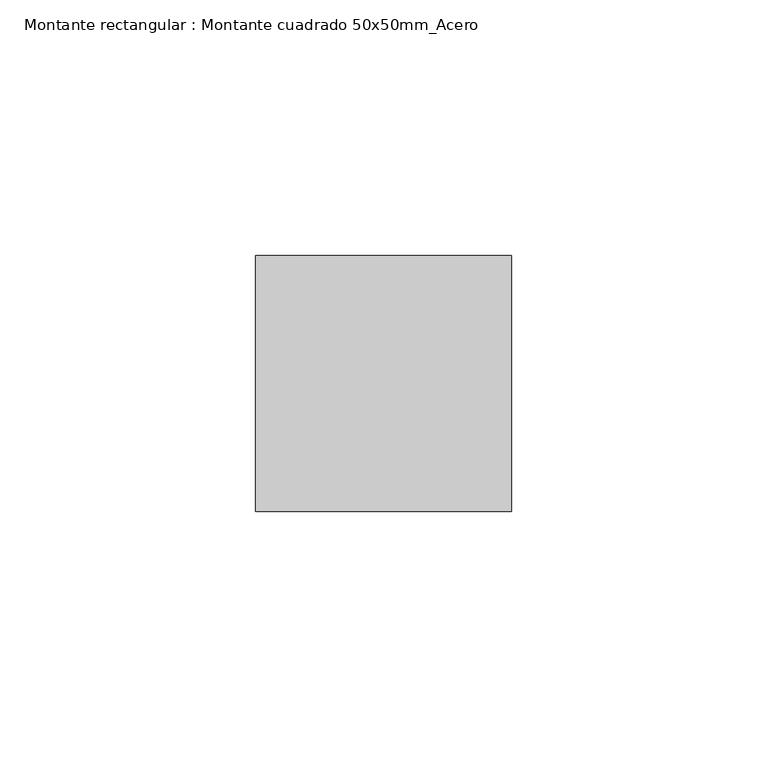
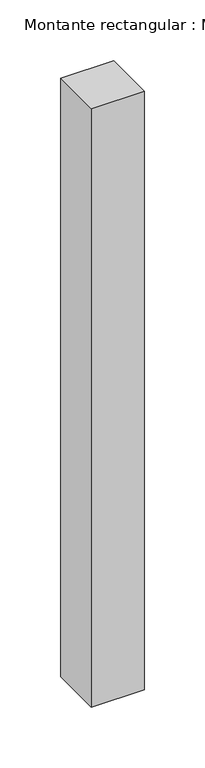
"""IFC4 building model written with IfcOpenShell, lengths in millimetres: member geometry, Montante rectangular : Montante cuadrado 50x50mm_Acero."""

import ifcopenshell
import ifcopenshell.guid

model = None  # the IFC model being written
_history = None  # IfcOwnerHistory: only IFC2X3 demands one
_inside = {}  # id of a spatial element -> (the spatial element, [elements in it])
_under = {}  # id of a project, library or spatial element -> (it, [spatial elements below it])
_declared = {}  # id of a project -> (the project, [libraries it declares])
_typed = {}  # id of a type object -> (the type object, [elements of that type])
_made_of = {}  # id of a material, layer set ... -> (it, [elements and type objects made of it])


def new_model(schema):
    """Start an empty IFC model of exactly this schema.

    Asked for "IFC4X3", IfcOpenShell would pick the latest addendum, in which some entities
    have other attributes; the version numbers below select the first issue.
    IFC2X3 requires an IfcOwnerHistory on every rooted entity: one is made here for all.
    """
    global model, _history
    if schema == "IFC4X3":
        model = ifcopenshell.file(schema_version=(4, 3, 0, 0))
    else:
        model = ifcopenshell.file(schema=schema)
    _inside.clear()
    _under.clear()
    _declared.clear()
    _typed.clear()
    _made_of.clear()
    _history = None
    if model.schema == "IFC2X3":
        org = make("IfcOrganization", Name="unknown")
        user = make(
            "IfcPersonAndOrganization",
            ThePerson=make("IfcPerson", FamilyName="unknown"),
            TheOrganization=org,
        )
        app = make(
            "IfcApplication",
            ApplicationDeveloper=org,
            Version="unknown",
            ApplicationFullName="unknown",
            ApplicationIdentifier="unknown",
        )
        _history = make(
            "IfcOwnerHistory",
            OwningUser=user,
            OwningApplication=app,
            ChangeAction="ADDED",
            CreationDate=0,
        )
    return model


def make(cls, **values):
    """One entity of the class cls with the attributes given. An attribute that is None is left unset."""
    return model.create_entity(
        cls, **{name: value for name, value in values.items() if value is not None}
    )


def rooted(cls, **values):
    """An entity with a GlobalId (a new one), such as an element, a storey or a relation."""
    return make(cls, GlobalId=ifcopenshell.guid.new(), OwnerHistory=_history, **values)


def si_unit(unit_type, name, prefix=None):
    """IfcSIUnit, for example si_unit("LENGTHUNIT", "METRE", prefix="MILLI")."""
    return make("IfcSIUnit", UnitType=unit_type, Prefix=prefix, Name=name)


def assignment(units):
    """IfcUnitAssignment: the units of a project."""
    return None if units is None else make("IfcUnitAssignment", Units=units)


def point(xyz):
    """IfcCartesianPoint."""
    return None if xyz is None else make("IfcCartesianPoint", Coordinates=xyz)


def direction(xyz):
    """IfcDirection."""
    return None if xyz is None else make("IfcDirection", DirectionRatios=xyz)


def frame(location, z_axis=None, x_axis=None):
    """IfcAxis2Placement3D, a coordinate frame: its origin and axes. An axis left out is left unset."""
    return make(
        "IfcAxis2Placement3D",
        Location=point(location),
        Axis=direction(z_axis),
        RefDirection=direction(x_axis),
    )


def origin():
    """The frame at (0, 0, 0) with its axes left unset."""
    return frame((0.0, 0.0, 0.0))


def place(relative_to, where):
    """IfcLocalPlacement: puts the frame where relative to a parent placement (None: the world)."""
    return make(
        "IfcLocalPlacement", PlacementRelTo=relative_to, RelativePlacement=where
    )


def context(
    kind, dimensions, precision=None, world=None, true_north=None, identifier=None
):
    """IfcGeometricRepresentationContext, for example the 3D "Model" context."""
    return make(
        "IfcGeometricRepresentationContext",
        ContextIdentifier=identifier,
        ContextType=kind,
        CoordinateSpaceDimension=dimensions,
        Precision=precision,
        WorldCoordinateSystem=world,
        TrueNorth=true_north,
    )


def project(units=None, contexts=None):
    """IfcProject with its units and contexts."""
    return rooted(
        "IfcProject",
        Name="project",
        RepresentationContexts=contexts,
        UnitsInContext=assignment(units),
    )


def spatial(cls, under=None, at=None, **own):
    """A site, building, storey or space (cls), placed at a placement, below another one or the project."""
    s = rooted(cls, ObjectPlacement=at, **own)
    if under is not None:
        _under.setdefault(under.id(), (under, []))[1].append(s)
    return s


def polyline(points):
    """IfcPolyline through the points."""
    return make("IfcPolyline", Points=[point(p) for p in points])


def outline(outer, holes=None, kind="AREA"):
    """IfcArbitraryClosedProfileDef: a profile drawn as a closed curve; with holes, ...WithVoids."""
    if holes is None:
        return make("IfcArbitraryClosedProfileDef", ProfileType=kind, OuterCurve=outer)
    return make(
        "IfcArbitraryProfileDefWithVoids",
        ProfileType=kind,
        OuterCurve=outer,
        InnerCurves=holes,
    )


def extrude(swept, where, along, depth):
    """IfcExtrudedAreaSolid: the profile swept, set in the frame where, extruded along a direction by depth."""
    return make(
        "IfcExtrudedAreaSolid",
        SweptArea=swept,
        Position=where,
        ExtrudedDirection=direction(along),
        Depth=depth,
    )


def shape(context_of_items, identifier, shape_type, items):
    """IfcShapeRepresentation: the items that make up one representation, for example the "Body"."""
    return make(
        "IfcShapeRepresentation",
        ContextOfItems=context_of_items,
        RepresentationIdentifier=identifier,
        RepresentationType=shape_type,
        Items=items,
    )


def source(mapping_origin, context_of_items, identifier, shape_type, items):
    """IfcRepresentationMap: a shape defined once, which mapped items show again and again."""
    return make(
        "IfcRepresentationMap",
        MappingOrigin=mapping_origin,
        MappedRepresentation=shape(context_of_items, identifier, shape_type, items),
    )


def transform(
    local_origin,
    x_axis=None,
    y_axis=None,
    z_axis=None,
    scale=None,
    scale2=None,
    scale3=None,
    uniform=True,
):
    """IfcCartesianTransformationOperator3D, or its non-uniform kind. x_axis, y_axis, z_axis: its Axis1, 2, 3."""
    if uniform:
        return make(
            "IfcCartesianTransformationOperator3D",
            Axis1=direction(x_axis),
            Axis2=direction(y_axis),
            LocalOrigin=point(local_origin),
            Scale=scale,
            Axis3=direction(z_axis),
        )
    return make(
        "IfcCartesianTransformationOperator3DnonUniform",
        Axis1=direction(x_axis),
        Axis2=direction(y_axis),
        LocalOrigin=point(local_origin),
        Scale=scale,
        Axis3=direction(z_axis),
        Scale2=scale2,
        Scale3=scale3,
    )


def mapped(mapping_source, mapping_target):
    """IfcMappedItem: shows the shape of a source again, moved by a transform."""
    return make(
        "IfcMappedItem", MappingSource=mapping_source, MappingTarget=mapping_target
    )


def made_of(thing, what):
    """Note that an element or type object is made of a material, layer set ...; save() writes the relation."""
    if what is not None:
        _made_of.setdefault(what.id(), (what, []))[1].append(thing)
    return thing


def element(
    cls,
    number,
    at=None,
    inside=None,
    cuts=None,
    type_object=None,
    material=None,
    context=None,
    identifier="Body",
    shape_type=None,
    held_by="IfcProductDefinitionShape",
    body=None,
    shapes=None,
    **own,
):
    """One element of the class cls, such as IfcWall. Its Tag is "e" and its number.

    at: its placement. inside: the storey or other place that contains it. cuts: it is an
    opening in that element (IfcRelVoidsElement). A single representation is given by context,
    identifier, shape_type and body (its items); several are given by shapes. held_by: the class
    of the entity that holds the representations. save() writes the other relations.
    """
    e = rooted(cls, Tag="e%d" % number, ObjectPlacement=at, **own)
    if body is not None:
        shapes = [shape(context, identifier, shape_type, body)]
    if shapes is not None:
        e.Representation = make(held_by, Representations=shapes)
    if inside is not None:
        _inside.setdefault(inside.id(), (inside, []))[1].append(e)
    if cuts is not None:
        rooted(
            "IfcRelVoidsElement", RelatingBuildingElement=cuts, RelatedOpeningElement=e
        )
    if type_object is not None:
        _typed.setdefault(type_object.id(), (type_object, []))[1].append(e)
    return made_of(e, material)


def aggregate(whole, parts):
    """IfcRelAggregates: a whole, such as a stair, and the parts it consists of."""
    return rooted("IfcRelAggregates", RelatingObject=whole, RelatedObjects=parts)


def save(model, path):
    """Write the relations noted so far, then the file.

    IfcRelAggregates (storeys below a building ...), IfcRelContainedInSpatialStructure (elements
    in a storey), IfcRelDefinesByType, IfcRelAssociatesMaterial and IfcRelDeclares: one each for
    every whole, place, type object, material and project.
    """
    for whole, parts in _under.values():
        aggregate(whole, parts)
    for where, things in _inside.values():
        rooted(
            "IfcRelContainedInSpatialStructure",
            RelatedElements=things,
            RelatingStructure=where,
        )
    for kind, things in _typed.values():
        rooted("IfcRelDefinesByType", RelatedObjects=things, RelatingType=kind)
    for what, things in _made_of.values():
        rooted("IfcRelAssociatesMaterial", RelatedObjects=things, RelatingMaterial=what)
    for by, libraries in _declared.values():
        rooted("IfcRelDeclares", RelatingContext=by, RelatedDefinitions=libraries)
    model.write(path)


def montante_rectangular_montante_cuadrado_50x50mm_acero_400ae449(model_context):
    return source(origin(), model_context, "Body", "SweptSolid", [
        extrude(outline(polyline([(-50.0, 0.0), (0.0, 0.0), (0.0, -50.0), (-50.0, -50.0), (-50.0, 0.0)])), frame((0.0, 0.0, -600.0), z_axis=(0.0, 0.0, 1.0), x_axis=(1.0, 0.0, 0.0)), (0.0, 0.0, 1.0), 600.0),
    ])


if __name__ == "__main__":
    model = new_model("IFC4")
    model_context = context("Model", 3, world=origin())
    ifc_project = project(units=[si_unit("LENGTHUNIT", "METRE", prefix="MILLI")], contexts=[model_context])
    site = spatial("IfcSite", under=ifc_project)
    building = spatial("IfcBuilding", under=site)
    placement = place(None, origin())
    montante_rectangular_montante_cuadrado_50x50mm_acero_shape = montante_rectangular_montante_cuadrado_50x50mm_acero_400ae449(model_context)
    element("IfcMember", 1, ObjectType="Montante rectangular : Montante cuadrado 50x50mm_Acero", at=placement, inside=building, context=model_context, shape_type="MappedRepresentation", body=[
        mapped(montante_rectangular_montante_cuadrado_50x50mm_acero_shape, transform((0.0, 0.0, 0.0), x_axis=(1.0, 0.0, 0.0), y_axis=(0.0, 1.0, 0.0), z_axis=(0.0, 0.0, 1.0))),
    ])
    save(model, "model.ifc")
